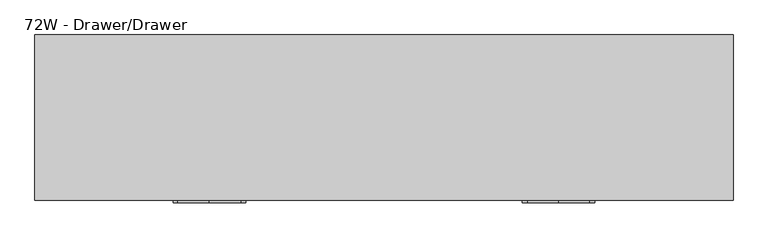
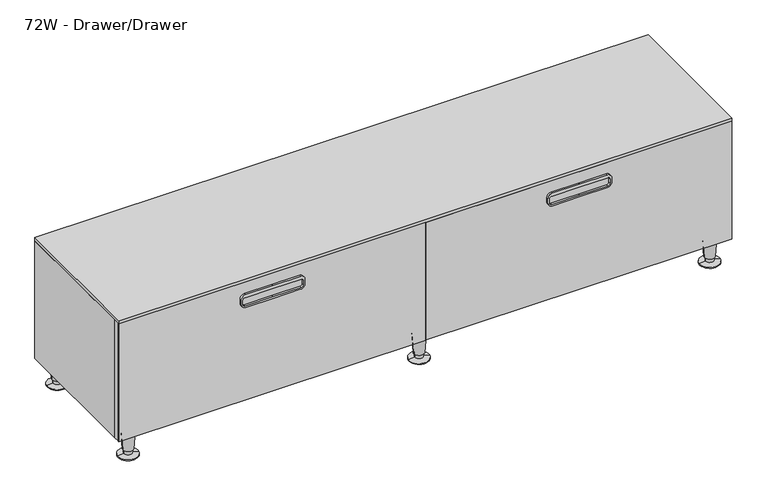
"""IFC4 building model written with IfcOpenShell, lengths in millimetres: furniture geometry, Steelcase - C Scape - Low Storage - 1 High - 60W and 72W : 72W - Drawer/Drawer."""

from ifc_helpers import new_model, si_unit, point, frame, frame_2d, origin, place, context, project, spatial, polyline, circle_curve, trimmed, segment, composite_curve, outline, extrude, faceted_brep, source, transform, mapped, element, save
from ifc_brep_helpers import plane_surface, cylinder_surface, revolved_surface, advanced_brep


def furniture_72w_drawer_drawer_86bb611e(model_context):
    return source(origin(), model_context, "Body", "SolidModel", [
        extrude(outline(polyline([(447.0400097, 1522.73), (447.0400097, -305.435), (76.2, -305.435), (76.2, 1522.73), (447.0400097, 1522.73)]), holes=[polyline([(436.118, 1501.3917676), (92.7100024, 1501.3917676), (92.7100024, -283.4630912), (436.118, -283.4630912), (436.118, 1501.3917676)])]), frame((0.0, -426.7186111, 0.0), z_axis=(0.0, 1.0, 0.0), x_axis=(0.0, 0.0, 1.0)), (0.0, 0.0, 1.0), 14.3975487),
        faceted_brep([(-283.4630912, -412.3210624, 92.7100024), (586.4224874, -412.3210624, 92.7100024), (586.4224874, -9.525, 92.7100024), (-283.4630912, -9.525, 92.7100024), (631.5075126, -412.3210624, 92.7100024), (1501.3917676, -412.3210624, 92.7100024), (1501.3917676, -9.525, 92.7100024), (631.5075126, -9.525, 92.7100024), (-305.435, 0.0, 76.2), (1523.365, 0.0, 76.2), (1523.365, -412.3210624, 76.2), (-305.435, -412.3210624, 76.2), (-305.435, -412.3210624, 447.0400097), (-305.435, 0.0, 447.0400097), (1523.365, -412.3210624, 447.0400097), (1501.3917676, -412.3210624, 447.0400097), (-283.4630912, -412.3210624, 447.0400097), (1523.365, 0.0, 447.0400097), (-283.4630912, -9.525, 447.0400097), (586.4224874, -9.525, 447.0400097), (586.4224874, -415.2912402, 447.0400097), (600.0410976, -426.7186111, 447.0400097), (617.8889024, -426.7186111, 447.0400097), (631.5075126, -415.2912402, 447.0400097), (631.5075126, -9.525, 447.0400097), (1501.3917676, -9.525, 447.0400097), (586.4224874, -415.2912402, 92.7100024), (600.0410976, -426.7186111, 92.7100024), (617.8889024, -426.7186111, 92.7100024), (631.5075126, -415.2912402, 92.7100024)], [[[0, 1, 2, 3]], [[4, 5, 6, 7]], [[8, 9, 10, 11]], [[8, 11, 12, 13]], [[12, 11, 10, 14, 15, 5, 4, 1, 0, 16]], [[14, 10, 9, 17]], [[17, 9, 8, 13]], [[13, 12, 16, 18, 19, 20, 21, 22, 23, 24, 25, 15, 14, 17]], [[18, 16, 0, 3]], [[19, 18, 3, 2]], [[20, 19, 2, 1, 26]], [[21, 20, 26, 27]], [[23, 22, 28, 29]], [[24, 23, 29, 4, 7]], [[25, 24, 7, 6]], [[15, 25, 6, 5]], [[29, 28, 27, 26, 1, 4]], [[22, 21, 27, 28]]]),
        extrude(outline(composite_curve([segment(polyline([(412.7499879, 233.6804108), (412.7499879, 151.447655), (412.7499879, 69.2148993)]), True, "CONTINUOUS"), segment(trimmed(circle_curve(frame_2d((400.0499879, 69.2148993)), 12.7), [point((412.7499879, 69.2148993))], [point((400.0499879, 56.5148993))], False, "CARTESIAN"), True, "CONTINUOUS"), segment(polyline([(400.0499879, 56.5148993), (385.445017, 56.5148993)]), True, "CONTINUOUS"), segment(trimmed(circle_curve(frame_2d((385.445017, 69.2148993)), 12.7), [point((385.445017, 56.5148993))], [point((372.745017, 69.2148993))], False, "CARTESIAN"), True, "CONTINUOUS"), segment(polyline([(372.745017, 69.2148993), (372.745017, 151.447655), (372.745017, 233.6804108)]), True, "CONTINUOUS"), segment(trimmed(circle_curve(frame_2d((385.445017, 233.6804108)), 12.7), [point((372.745017, 233.6804108))], [point((385.445017, 246.3804108))], False, "CARTESIAN"), True, "CONTINUOUS"), segment(polyline([(385.445017, 246.3804108), (400.0499879, 246.3804108)]), True, "CONTINUOUS"), segment(trimmed(circle_curve(frame_2d((400.0499879, 233.6804108)), 12.7), [point((400.0499879, 246.3804108))], [point((412.7499879, 233.6804108))], False, "CARTESIAN"), True, "CONTINUOUS")], self_intersect=False), holes=[composite_curve([segment(polyline([(396.6210063, 241.5527985), (383.9209942, 241.5527985)]), True, "CONTINUOUS"), segment(trimmed(circle_curve(frame_2d((383.9209942, 235.2027985)), 6.35), [point((383.9209942, 241.5527985))], [point((377.5709942, 235.2027985))], True, "CARTESIAN"), True, "CONTINUOUS"), segment(polyline([(377.5709942, 235.2027985), (377.5709942, 151.447655), (377.5709942, 67.6925116)]), True, "CONTINUOUS"), segment(trimmed(circle_curve(frame_2d((383.9209942, 67.6925116)), 6.35), [point((377.5709942, 67.6925116))], [point((383.9209942, 61.3425116))], True, "CARTESIAN"), True, "CONTINUOUS"), segment(polyline([(383.9209942, 61.3425116), (396.6210063, 61.3425116)]), True, "CONTINUOUS"), segment(trimmed(circle_curve(frame_2d((396.6210063, 67.6925116)), 6.35), [point((396.6210063, 61.3425116))], [point((402.9710063, 67.6925116))], True, "CARTESIAN"), True, "CONTINUOUS"), segment(polyline([(402.9710063, 67.6925116), (402.9710063, 151.447655), (402.9710063, 235.2027985)]), True, "CONTINUOUS"), segment(trimmed(circle_curve(frame_2d((396.6210063, 235.2027985)), 6.35), [point((402.9710063, 235.2027985))], [point((396.6210063, 241.5527985))], True, "CARTESIAN"), True, "CONTINUOUS")], self_intersect=False)]), frame((0.0, -439.42, 0.0), z_axis=(0.0, 1.0, 0.0), x_axis=(0.0, 0.0, 1.0)), (0.0, 0.0, 1.0), 6.35),
        extrude(outline(polyline([(608.3303101, -426.7186111), (608.3303101, -433.07), (-305.435, -433.07), (-305.435, -426.7186111), (608.3303101, -426.7186111)])), frame((0.0, 0.0, 76.2), z_axis=(0.0, 0.0, 1.0), x_axis=(1.0, 0.0, 0.0)), (0.0, 0.0, 1.0), 370.8400097),
        advanced_brep(
        [(579.8539515, -29.9489775, 0.0), (638.0760485, -38.8569507, 0.0), (608.965, -34.4029641, 0.0), (579.8539515, -29.9489775, 2.5119506), (638.0760485, -38.8569507, 2.5119506), (597.202835, -32.6033544, 5.7545598), (620.727165, -36.2025738, 5.7545598), (596.5140655, -32.4979728, 19.05), (621.4159345, -36.3079555, 19.05), (594.0844786, -32.1262463, 19.05), (623.8455214, -36.6796819, 19.05), (590.1341305, -31.5218435, 76.2), (627.7958695, -37.2840847, 76.2), (608.965, -34.4029641, 76.2)],
        [
            (0, 1, circle_curve(frame((608.965, -34.4029641, 0.0), z_axis=(0.0, 0.0, -1.0), x_axis=(0.0, -1.0, 0.0)), 29.4498071)),
            (1, 2),
            (2, 0),
            (1, 0, circle_curve(frame((608.965, -34.4029641, 0.0), z_axis=(0.0, 0.0, -1.0), x_axis=(0.0, -1.0, 0.0)), 29.4498071)),
            (3, 4, circle_curve(frame((608.965, -34.4029641, 2.5119506), z_axis=(0.0, 0.0, -1.0), x_axis=(0.0, -1.0, 0.0)), 29.4498071)),
            (4, 1),
            (0, 3),
            (4, 3, circle_curve(frame((608.965, -34.4029641, 2.5119506), z_axis=(0.0, 0.0, -1.0), x_axis=(0.0, -1.0, 0.0)), 29.4498071)),
            (5, 6, circle_curve(frame((608.965, -34.4029641, 5.7545598), z_axis=(0.0, 0.0, -1.0), x_axis=(0.0, -1.0, 0.0)), 11.8990387)),
            (6, 4),
            (3, 5),
            (6, 5, circle_curve(frame((608.965, -34.4029641, 5.7545598), z_axis=(0.0, 0.0, -1.0), x_axis=(0.0, -1.0, 0.0)), 11.8990387)),
            (7, 8, circle_curve(frame((608.965, -34.4029641, 19.05), z_axis=(0.0, 0.0, -1.0), x_axis=(0.0, -1.0, 0.0)), 12.5958232)),
            (8, 6),
            (5, 7),
            (8, 7, circle_curve(frame((608.965, -34.4029641, 19.05), z_axis=(0.0, 0.0, -1.0), x_axis=(0.0, -1.0, 0.0)), 12.5958232)),
            (9, 10, circle_curve(frame((608.965, -34.4029641, 19.05), z_axis=(0.0, 0.0, -1.0), x_axis=(0.0, -1.0, 0.0)), 15.0536827)),
            (10, 8),
            (7, 9),
            (10, 9, circle_curve(frame((608.965, -34.4029641, 19.05), z_axis=(0.0, 0.0, -1.0), x_axis=(0.0, -1.0, 0.0)), 15.0536827)),
            (11, 12, circle_curve(frame((608.965, -34.4029641, 76.2), z_axis=(0.0, 0.0, -1.0), x_axis=(0.0, -1.0, 0.0)), 19.05)),
            (12, 10),
            (9, 11),
            (12, 11, circle_curve(frame((608.965, -34.4029641, 76.2), z_axis=(0.0, 0.0, -1.0), x_axis=(0.0, -1.0, 0.0)), 19.05)),
            (13, 12),
            (11, 13),
        ],
        [
            plane_surface(frame((608.965, -34.4029641, 0.0), z_axis=(0.0, 0.0, -1.0), x_axis=(0.0, -1.0, 0.0))),
            cylinder_surface(frame((608.965, -34.4029641, 25.4), z_axis=(0.0, 0.0, 1.0), x_axis=(0.0, -1.0, 0.0)), 29.4498071),
            revolved_surface(polyline([(608.965, -63.8527712, 2.5119506), (608.965, -46.3020028, 5.7545598)]), (608.965, -34.4029641, 25.4), (0.0, 0.0, 1.0)),
            revolved_surface(polyline([(608.965, -46.3020028, 5.7545598), (608.965, -46.9987873, 19.05)]), (608.965, -34.4029641, 25.4), (0.0, 0.0, 1.0)),
            plane_surface(frame((608.965, -34.4029641, 19.05), z_axis=(0.0, 0.0, -1.0), x_axis=(0.0, -1.0, 0.0))),
            revolved_surface(polyline([(608.965, -49.4566468, 19.05), (608.965, -53.4529641, 76.2)]), (608.965, -34.4029641, 25.4), (0.0, 0.0, 1.0)),
            plane_surface(frame((608.965, -34.4029641, 76.2), z_axis=(0.0, 0.0, 1.0), x_axis=(0.0, -1.0, 0.0))),
        ],
        [
            (0, [[1, 2, 3]]),
            (0, [[4, -3, -2]]),
            (1, [[5, 6, -1, 7]]),
            (1, [[8, -7, -4, -6]]),
            (2, [[9, 10, -5, 11]]),
            (2, [[12, -11, -8, -10]]),
            (3, [[13, 14, -9, 15]]),
            (3, [[16, -15, -12, -14]]),
            (4, [[17, 18, -13, 19]]),
            (4, [[20, -19, -16, -18]]),
            (5, [[21, 22, -17, 23]]),
            (5, [[24, -23, -20, -22]]),
            (6, [[25, -21, 26]]),
            (6, [[-26, -24, -25]]),
        ],
    ),
        advanced_brep(
        [(579.8539515, -395.5974102, 0.0), (638.0760485, -404.5053834, 0.0), (608.965, -400.0513968, 0.0), (579.8539515, -395.5974102, 2.5119506), (638.0760485, -404.5053834, 2.5119506), (597.202835, -398.2517871, 5.7545598), (620.727165, -401.8510065, 5.7545598), (596.5140655, -398.1464055, 19.05), (621.4159345, -401.9563882, 19.05), (594.0844786, -397.774679, 19.05), (623.8455214, -402.3281146, 19.05), (590.1341305, -397.1702762, 76.2), (627.7958695, -402.9325174, 76.2), (608.965, -400.0513968, 76.2)],
        [
            (0, 1, circle_curve(frame((608.965, -400.0513968, 0.0), z_axis=(0.0, 0.0, -1.0), x_axis=(0.0, -1.0, 0.0)), 29.4498071)),
            (1, 2),
            (2, 0),
            (1, 0, circle_curve(frame((608.965, -400.0513968, 0.0), z_axis=(0.0, 0.0, -1.0), x_axis=(0.0, -1.0, 0.0)), 29.4498071)),
            (3, 4, circle_curve(frame((608.965, -400.0513968, 2.5119506), z_axis=(0.0, 0.0, -1.0), x_axis=(0.0, -1.0, 0.0)), 29.4498071)),
            (4, 1),
            (0, 3),
            (4, 3, circle_curve(frame((608.965, -400.0513968, 2.5119506), z_axis=(0.0, 0.0, -1.0), x_axis=(0.0, -1.0, 0.0)), 29.4498071)),
            (5, 6, circle_curve(frame((608.965, -400.0513968, 5.7545598), z_axis=(0.0, 0.0, -1.0), x_axis=(0.0, -1.0, 0.0)), 11.8990387)),
            (6, 4),
            (3, 5),
            (6, 5, circle_curve(frame((608.965, -400.0513968, 5.7545598), z_axis=(0.0, 0.0, -1.0), x_axis=(0.0, -1.0, 0.0)), 11.8990387)),
            (7, 8, circle_curve(frame((608.965, -400.0513968, 19.05), z_axis=(0.0, 0.0, -1.0), x_axis=(0.0, -1.0, 0.0)), 12.5958232)),
            (8, 6),
            (5, 7),
            (8, 7, circle_curve(frame((608.965, -400.0513968, 19.05), z_axis=(0.0, 0.0, -1.0), x_axis=(0.0, -1.0, 0.0)), 12.5958232)),
            (9, 10, circle_curve(frame((608.965, -400.0513968, 19.05), z_axis=(0.0, 0.0, -1.0), x_axis=(0.0, -1.0, 0.0)), 15.0536827)),
            (10, 8),
            (7, 9),
            (10, 9, circle_curve(frame((608.965, -400.0513968, 19.05), z_axis=(0.0, 0.0, -1.0), x_axis=(0.0, -1.0, 0.0)), 15.0536827)),
            (11, 12, circle_curve(frame((608.965, -400.0513968, 76.2), z_axis=(0.0, 0.0, -1.0), x_axis=(0.0, -1.0, 0.0)), 19.05)),
            (12, 10),
            (9, 11),
            (12, 11, circle_curve(frame((608.965, -400.0513968, 76.2), z_axis=(0.0, 0.0, -1.0), x_axis=(0.0, -1.0, 0.0)), 19.05)),
            (13, 12),
            (11, 13),
        ],
        [
            plane_surface(frame((608.965, -400.0513968, 0.0), z_axis=(0.0, 0.0, -1.0), x_axis=(0.0, -1.0, 0.0))),
            cylinder_surface(frame((608.965, -400.0513968, 25.4), z_axis=(0.0, 0.0, 1.0), x_axis=(0.0, -1.0, 0.0)), 29.4498071),
            revolved_surface(polyline([(608.965, -429.5012039, 2.5119506), (608.965, -411.9504355, 5.7545598)]), (608.965, -400.0513968, 25.4), (0.0, 0.0, 1.0)),
            revolved_surface(polyline([(608.965, -411.9504355, 5.7545598), (608.965, -412.64722, 19.05)]), (608.965, -400.0513968, 25.4), (0.0, 0.0, 1.0)),
            plane_surface(frame((608.965, -400.0513968, 19.05), z_axis=(0.0, 0.0, -1.0), x_axis=(0.0, -1.0, 0.0))),
            revolved_surface(polyline([(608.965, -415.1050795, 19.05), (608.965, -419.1013968, 76.2)]), (608.965, -400.0513968, 25.4), (0.0, 0.0, 1.0)),
            plane_surface(frame((608.965, -400.0513968, 76.2), z_axis=(0.0, 0.0, 1.0), x_axis=(0.0, -1.0, 0.0))),
        ],
        [
            (0, [[1, 2, 3]]),
            (0, [[4, -3, -2]]),
            (1, [[5, 6, -1, 7]]),
            (1, [[8, -7, -4, -6]]),
            (2, [[9, 10, -5, 11]]),
            (2, [[12, -11, -8, -10]]),
            (3, [[13, 14, -9, 15]]),
            (3, [[16, -15, -12, -14]]),
            (4, [[17, 18, -13, 19]]),
            (4, [[20, -19, -16, -18]]),
            (5, [[21, 22, -17, 23]]),
            (5, [[24, -23, -20, -22]]),
            (6, [[25, -21, 26]]),
            (6, [[-26, -24, -25]]),
        ],
    ),
        extrude(outline(composite_curve([segment(trimmed(circle_curve(frame_2d((400.0499879, 983.9320892)), 12.7), [point((412.7499879, 983.9320892))], [point((400.0499879, 971.2320892))], False, "CARTESIAN"), True, "CONTINUOUS"), segment(polyline([(400.0499879, 971.2320892), (385.445017, 971.2320892)]), True, "CONTINUOUS"), segment(trimmed(circle_curve(frame_2d((385.445017, 983.9320892)), 12.7), [point((385.445017, 971.2320892))], [point((372.745017, 983.9320892))], False, "CARTESIAN"), True, "CONTINUOUS"), segment(polyline([(372.745017, 983.9320892), (372.745017, 1066.164845), (372.745017, 1148.3976007)]), True, "CONTINUOUS"), segment(trimmed(circle_curve(frame_2d((385.445017, 1148.3976007)), 12.7), [point((372.745017, 1148.3976007))], [point((385.445017, 1161.0976007))], False, "CARTESIAN"), True, "CONTINUOUS"), segment(polyline([(385.445017, 1161.0976007), (400.0499879, 1161.0976007)]), True, "CONTINUOUS"), segment(trimmed(circle_curve(frame_2d((400.0499879, 1148.3976007)), 12.7), [point((400.0499879, 1161.0976007))], [point((412.7499879, 1148.3976007))], False, "CARTESIAN"), True, "CONTINUOUS"), segment(polyline([(412.7499879, 1148.3976007), (412.7499879, 1066.164845), (412.7499879, 983.9320892)]), True, "CONTINUOUS")], self_intersect=False), holes=[composite_curve([segment(trimmed(circle_curve(frame_2d((396.6210063, 982.4097015)), 6.35), [point((396.6210063, 976.0597015))], [point((402.9710063, 982.4097015))], True, "CARTESIAN"), True, "CONTINUOUS"), segment(polyline([(402.9710063, 982.4097015), (402.9710063, 1066.164845), (402.9710063, 1149.9199884)]), True, "CONTINUOUS"), segment(trimmed(circle_curve(frame_2d((396.6210063, 1149.9199884)), 6.35), [point((402.9710063, 1149.9199884))], [point((396.6210063, 1156.2699884))], True, "CARTESIAN"), True, "CONTINUOUS"), segment(polyline([(396.6210063, 1156.2699884), (383.9209942, 1156.2699884)]), True, "CONTINUOUS"), segment(trimmed(circle_curve(frame_2d((383.9209942, 1149.9199884)), 6.35), [point((383.9209942, 1156.2699884))], [point((377.5709942, 1149.9199884))], True, "CARTESIAN"), True, "CONTINUOUS"), segment(polyline([(377.5709942, 1149.9199884), (377.5709942, 1066.164845), (377.5709942, 982.4097015)]), True, "CONTINUOUS"), segment(trimmed(circle_curve(frame_2d((383.9209942, 982.4097015)), 6.35), [point((377.5709942, 982.4097015))], [point((383.9209942, 976.0597015))], True, "CARTESIAN"), True, "CONTINUOUS"), segment(polyline([(383.9209942, 976.0597015), (396.6210063, 976.0597015)]), True, "CONTINUOUS")], self_intersect=False)]), frame((0.0, -439.42, 0.0), z_axis=(0.0, 1.0, 0.0), x_axis=(0.0, 0.0, 1.0)), (0.0, 0.0, 1.0), 6.35),
        advanced_brep(
        [(1446.9075389, -29.9489775, 0.0), (1505.1296359, -38.8569507, 0.0), (1476.0185874, -34.4029641, 0.0), (1446.9075389, -29.9489775, 2.5119506), (1505.1296359, -38.8569507, 2.5119506), (1464.2564224, -32.6033544, 5.7545598), (1487.7807524, -36.2025738, 5.7545598), (1463.5676529, -32.4979728, 19.05), (1488.4695219, -36.3079555, 19.05), (1461.1380659, -32.1262463, 19.05), (1490.8991088, -36.6796819, 19.05), (1457.1877179, -31.5218435, 76.2), (1494.8494568, -37.2840847, 76.2), (1476.0185874, -34.4029641, 76.2)],
        [
            (0, 1, circle_curve(frame((1476.0185874, -34.4029641, 0.0), z_axis=(0.0, 0.0, -1.0), x_axis=(0.0, -1.0, 0.0)), 29.4498071)),
            (1, 2),
            (2, 0),
            (1, 0, circle_curve(frame((1476.0185874, -34.4029641, 0.0), z_axis=(0.0, 0.0, -1.0), x_axis=(0.0, -1.0, 0.0)), 29.4498071)),
            (3, 4, circle_curve(frame((1476.0185874, -34.4029641, 2.5119506), z_axis=(0.0, 0.0, -1.0), x_axis=(0.0, -1.0, 0.0)), 29.4498071)),
            (4, 1),
            (0, 3),
            (4, 3, circle_curve(frame((1476.0185874, -34.4029641, 2.5119506), z_axis=(0.0, 0.0, -1.0), x_axis=(0.0, -1.0, 0.0)), 29.4498071)),
            (5, 6, circle_curve(frame((1476.0185874, -34.4029641, 5.7545598), z_axis=(0.0, 0.0, -1.0), x_axis=(0.0, -1.0, 0.0)), 11.8990387)),
            (6, 4),
            (3, 5),
            (6, 5, circle_curve(frame((1476.0185874, -34.4029641, 5.7545598), z_axis=(0.0, 0.0, -1.0), x_axis=(0.0, -1.0, 0.0)), 11.8990387)),
            (7, 8, circle_curve(frame((1476.0185874, -34.4029641, 19.05), z_axis=(0.0, 0.0, -1.0), x_axis=(0.0, -1.0, 0.0)), 12.5958232)),
            (8, 6),
            (5, 7),
            (8, 7, circle_curve(frame((1476.0185874, -34.4029641, 19.05), z_axis=(0.0, 0.0, -1.0), x_axis=(0.0, -1.0, 0.0)), 12.5958232)),
            (9, 10, circle_curve(frame((1476.0185874, -34.4029641, 19.05), z_axis=(0.0, 0.0, -1.0), x_axis=(0.0, -1.0, 0.0)), 15.0536827)),
            (10, 8),
            (7, 9),
            (10, 9, circle_curve(frame((1476.0185874, -34.4029641, 19.05), z_axis=(0.0, 0.0, -1.0), x_axis=(0.0, -1.0, 0.0)), 15.0536827)),
            (11, 12, circle_curve(frame((1476.0185874, -34.4029641, 76.2), z_axis=(0.0, 0.0, -1.0), x_axis=(0.0, -1.0, 0.0)), 19.05)),
            (12, 10),
            (9, 11),
            (12, 11, circle_curve(frame((1476.0185874, -34.4029641, 76.2), z_axis=(0.0, 0.0, -1.0), x_axis=(0.0, -1.0, 0.0)), 19.05)),
            (13, 12),
            (11, 13),
        ],
        [
            plane_surface(frame((1476.0185874, -34.4029641, 0.0), z_axis=(0.0, 0.0, -1.0), x_axis=(0.0, -1.0, 0.0))),
            cylinder_surface(frame((1476.0185874, -34.4029641, 25.4), z_axis=(0.0, 0.0, 1.0), x_axis=(0.0, -1.0, 0.0)), 29.4498071),
            revolved_surface(polyline([(1476.0185874, -63.8527712, 2.5119506), (1476.0185874, -46.3020028, 5.7545598)]), (1476.0185874, -34.4029641, 25.4), (0.0, 0.0, 1.0)),
            revolved_surface(polyline([(1476.0185874, -46.3020028, 5.7545598), (1476.0185874, -46.9987873, 19.05)]), (1476.0185874, -34.4029641, 25.4), (0.0, 0.0, 1.0)),
            plane_surface(frame((1476.0185874, -34.4029641, 19.05), z_axis=(0.0, 0.0, -1.0), x_axis=(0.0, -1.0, 0.0))),
            revolved_surface(polyline([(1476.0185874, -49.4566468, 19.05), (1476.0185874, -53.4529641, 76.2)]), (1476.0185874, -34.4029641, 25.4), (0.0, 0.0, 1.0)),
            plane_surface(frame((1476.0185874, -34.4029641, 76.2), z_axis=(0.0, 0.0, 1.0), x_axis=(0.0, -1.0, 0.0))),
        ],
        [
            (0, [[1, 2, 3]]),
            (0, [[4, -3, -2]]),
            (1, [[5, 6, -1, 7]]),
            (1, [[8, -7, -4, -6]]),
            (2, [[9, 10, -5, 11]]),
            (2, [[12, -11, -8, -10]]),
            (3, [[13, 14, -9, 15]]),
            (3, [[16, -15, -12, -14]]),
            (4, [[17, 18, -13, 19]]),
            (4, [[20, -19, -16, -18]]),
            (5, [[21, 22, -17, 23]]),
            (5, [[24, -23, -20, -22]]),
            (6, [[25, -21, 26]]),
            (6, [[-26, -24, -25]]),
        ],
    ),
        advanced_brep(
        [(1446.9075389, -395.5974102, 0.0), (1505.1296359, -404.5053834, 0.0), (1476.0185874, -400.0513968, 0.0), (1446.9075389, -395.5974102, 2.5119506), (1505.1296359, -404.5053834, 2.5119506), (1464.2564224, -398.2517871, 5.7545598), (1487.7807524, -401.8510065, 5.7545598), (1463.5676529, -398.1464055, 19.05), (1488.4695219, -401.9563882, 19.05), (1461.1380659, -397.774679, 19.05), (1490.8991088, -402.3281146, 19.05), (1457.1877179, -397.1702762, 76.2), (1494.8494568, -402.9325174, 76.2), (1476.0185874, -400.0513968, 76.2)],
        [
            (0, 1, circle_curve(frame((1476.0185874, -400.0513968, 0.0), z_axis=(0.0, 0.0, -1.0), x_axis=(0.0, -1.0, 0.0)), 29.4498071)),
            (1, 2),
            (2, 0),
            (1, 0, circle_curve(frame((1476.0185874, -400.0513968, 0.0), z_axis=(0.0, 0.0, -1.0), x_axis=(0.0, -1.0, 0.0)), 29.4498071)),
            (3, 4, circle_curve(frame((1476.0185874, -400.0513968, 2.5119506), z_axis=(0.0, 0.0, -1.0), x_axis=(0.0, -1.0, 0.0)), 29.4498071)),
            (4, 1),
            (0, 3),
            (4, 3, circle_curve(frame((1476.0185874, -400.0513968, 2.5119506), z_axis=(0.0, 0.0, -1.0), x_axis=(0.0, -1.0, 0.0)), 29.4498071)),
            (5, 6, circle_curve(frame((1476.0185874, -400.0513968, 5.7545598), z_axis=(0.0, 0.0, -1.0), x_axis=(0.0, -1.0, 0.0)), 11.8990387)),
            (6, 4),
            (3, 5),
            (6, 5, circle_curve(frame((1476.0185874, -400.0513968, 5.7545598), z_axis=(0.0, 0.0, -1.0), x_axis=(0.0, -1.0, 0.0)), 11.8990387)),
            (7, 8, circle_curve(frame((1476.0185874, -400.0513968, 19.05), z_axis=(0.0, 0.0, -1.0), x_axis=(0.0, -1.0, 0.0)), 12.5958232)),
            (8, 6),
            (5, 7),
            (8, 7, circle_curve(frame((1476.0185874, -400.0513968, 19.05), z_axis=(0.0, 0.0, -1.0), x_axis=(0.0, -1.0, 0.0)), 12.5958232)),
            (9, 10, circle_curve(frame((1476.0185874, -400.0513968, 19.05), z_axis=(0.0, 0.0, -1.0), x_axis=(0.0, -1.0, 0.0)), 15.0536827)),
            (10, 8),
            (7, 9),
            (10, 9, circle_curve(frame((1476.0185874, -400.0513968, 19.05), z_axis=(0.0, 0.0, -1.0), x_axis=(0.0, -1.0, 0.0)), 15.0536827)),
            (11, 12, circle_curve(frame((1476.0185874, -400.0513968, 76.2), z_axis=(0.0, 0.0, -1.0), x_axis=(0.0, -1.0, 0.0)), 19.05)),
            (12, 10),
            (9, 11),
            (12, 11, circle_curve(frame((1476.0185874, -400.0513968, 76.2), z_axis=(0.0, 0.0, -1.0), x_axis=(0.0, -1.0, 0.0)), 19.05)),
            (13, 12),
            (11, 13),
        ],
        [
            plane_surface(frame((1476.0185874, -400.0513968, 0.0), z_axis=(0.0, 0.0, -1.0), x_axis=(0.0, -1.0, 0.0))),
            cylinder_surface(frame((1476.0185874, -400.0513968, 25.4), z_axis=(0.0, 0.0, 1.0), x_axis=(0.0, -1.0, 0.0)), 29.4498071),
            revolved_surface(polyline([(1476.0185874, -429.5012039, 2.5119506), (1476.0185874, -411.9504355, 5.7545598)]), (1476.0185874, -400.0513968, 25.4), (0.0, 0.0, 1.0)),
            revolved_surface(polyline([(1476.0185874, -411.9504355, 5.7545598), (1476.0185874, -412.64722, 19.05)]), (1476.0185874, -400.0513968, 25.4), (0.0, 0.0, 1.0)),
            plane_surface(frame((1476.0185874, -400.0513968, 19.05), z_axis=(0.0, 0.0, -1.0), x_axis=(0.0, -1.0, 0.0))),
            revolved_surface(polyline([(1476.0185874, -415.1050795, 19.05), (1476.0185874, -419.1013968, 76.2)]), (1476.0185874, -400.0513968, 25.4), (0.0, 0.0, 1.0)),
            plane_surface(frame((1476.0185874, -400.0513968, 76.2), z_axis=(0.0, 0.0, 1.0), x_axis=(0.0, -1.0, 0.0))),
        ],
        [
            (0, [[1, 2, 3]]),
            (0, [[4, -3, -2]]),
            (1, [[5, 6, -1, 7]]),
            (1, [[8, -7, -4, -6]]),
            (2, [[9, 10, -5, 11]]),
            (2, [[12, -11, -8, -10]]),
            (3, [[13, 14, -9, 15]]),
            (3, [[16, -15, -12, -14]]),
            (4, [[17, 18, -13, 19]]),
            (4, [[20, -19, -16, -18]]),
            (5, [[21, 22, -17, 23]]),
            (5, [[24, -23, -20, -22]]),
            (6, [[25, -21, 26]]),
            (6, [[-26, -24, -25]]),
        ],
    ),
        advanced_brep(
        [(-287.8113721, -395.5974102, 0.0), (-229.5892752, -404.5053834, 0.0), (-258.7003237, -400.0513968, 0.0), (-287.8113721, -395.5974102, 2.5119506), (-229.5892752, -404.5053834, 2.5119506), (-270.4624887, -398.2517871, 5.7545598), (-246.9381586, -401.8510065, 5.7545598), (-271.1512581, -398.1464055, 19.05), (-246.2493892, -401.9563882, 19.05), (-273.5808451, -397.774679, 19.05), (-243.8198022, -402.3281146, 19.05), (-277.5311931, -397.1702762, 76.2), (-239.8694542, -402.9325174, 76.2), (-258.7003237, -400.0513968, 76.2)],
        [
            (0, 1, circle_curve(frame((-258.7003237, -400.0513968, 0.0), z_axis=(0.0, 0.0, -1.0), x_axis=(0.0, -1.0, 0.0)), 29.4498071)),
            (1, 2),
            (2, 0),
            (1, 0, circle_curve(frame((-258.7003237, -400.0513968, 0.0), z_axis=(0.0, 0.0, -1.0), x_axis=(0.0, -1.0, 0.0)), 29.4498071)),
            (3, 4, circle_curve(frame((-258.7003237, -400.0513968, 2.5119506), z_axis=(0.0, 0.0, -1.0), x_axis=(0.0, -1.0, 0.0)), 29.4498071)),
            (4, 1),
            (0, 3),
            (4, 3, circle_curve(frame((-258.7003237, -400.0513968, 2.5119506), z_axis=(0.0, 0.0, -1.0), x_axis=(0.0, -1.0, 0.0)), 29.4498071)),
            (5, 6, circle_curve(frame((-258.7003237, -400.0513968, 5.7545598), z_axis=(0.0, 0.0, -1.0), x_axis=(0.0, -1.0, 0.0)), 11.8990387)),
            (6, 4),
            (3, 5),
            (6, 5, circle_curve(frame((-258.7003237, -400.0513968, 5.7545598), z_axis=(0.0, 0.0, -1.0), x_axis=(0.0, -1.0, 0.0)), 11.8990387)),
            (7, 8, circle_curve(frame((-258.7003237, -400.0513968, 19.05), z_axis=(0.0, 0.0, -1.0), x_axis=(0.0, -1.0, 0.0)), 12.5958232)),
            (8, 6),
            (5, 7),
            (8, 7, circle_curve(frame((-258.7003237, -400.0513968, 19.05), z_axis=(0.0, 0.0, -1.0), x_axis=(0.0, -1.0, 0.0)), 12.5958232)),
            (9, 10, circle_curve(frame((-258.7003237, -400.0513968, 19.05), z_axis=(0.0, 0.0, -1.0), x_axis=(0.0, -1.0, 0.0)), 15.0536827)),
            (10, 8),
            (7, 9),
            (10, 9, circle_curve(frame((-258.7003237, -400.0513968, 19.05), z_axis=(0.0, 0.0, -1.0), x_axis=(0.0, -1.0, 0.0)), 15.0536827)),
            (11, 12, circle_curve(frame((-258.7003237, -400.0513968, 76.2), z_axis=(0.0, 0.0, -1.0), x_axis=(0.0, -1.0, 0.0)), 19.05)),
            (12, 10),
            (9, 11),
            (12, 11, circle_curve(frame((-258.7003237, -400.0513968, 76.2), z_axis=(0.0, 0.0, -1.0), x_axis=(0.0, -1.0, 0.0)), 19.05)),
            (13, 12),
            (11, 13),
        ],
        [
            plane_surface(frame((-258.7003237, -400.0513968, 0.0), z_axis=(0.0, 0.0, -1.0), x_axis=(0.0, -1.0, 0.0))),
            cylinder_surface(frame((-258.7003237, -400.0513968, 25.4), z_axis=(0.0, 0.0, 1.0), x_axis=(0.0, -1.0, 0.0)), 29.4498071),
            revolved_surface(polyline([(-258.7003237, -429.5012039, 2.5119506), (-258.7003237, -411.9504355, 5.7545598)]), (-258.7003237, -400.0513968, 25.4), (0.0, 0.0, 1.0)),
            revolved_surface(polyline([(-258.7003237, -411.9504355, 5.7545598), (-258.7003237, -412.64722, 19.05)]), (-258.7003237, -400.0513968, 25.4), (0.0, 0.0, 1.0)),
            plane_surface(frame((-258.7003237, -400.0513968, 19.05), z_axis=(0.0, 0.0, -1.0), x_axis=(0.0, -1.0, 0.0))),
            revolved_surface(polyline([(-258.7003237, -415.1050795, 19.05), (-258.7003237, -419.1013968, 76.2)]), (-258.7003237, -400.0513968, 25.4), (0.0, 0.0, 1.0)),
            plane_surface(frame((-258.7003237, -400.0513968, 76.2), z_axis=(0.0, 0.0, 1.0), x_axis=(0.0, -1.0, 0.0))),
        ],
        [
            (0, [[1, 2, 3]]),
            (0, [[4, -3, -2]]),
            (1, [[5, 6, -1, 7]]),
            (1, [[8, -7, -4, -6]]),
            (2, [[9, 10, -5, 11]]),
            (2, [[12, -11, -8, -10]]),
            (3, [[13, 14, -9, 15]]),
            (3, [[16, -15, -12, -14]]),
            (4, [[17, 18, -13, 19]]),
            (4, [[20, -19, -16, -18]]),
            (5, [[21, 22, -17, 23]]),
            (5, [[24, -23, -20, -22]]),
            (6, [[25, -21, 26]]),
            (6, [[-26, -24, -25]]),
        ],
    ),
        advanced_brep(
        [(-287.8113721, -29.9489775, 0.0), (-229.5892752, -38.8569507, 0.0), (-258.7003237, -34.4029641, 0.0), (-287.8113721, -29.9489775, 2.5119506), (-229.5892752, -38.8569507, 2.5119506), (-270.4624887, -32.6033544, 5.7545598), (-246.9381586, -36.2025738, 5.7545598), (-271.1512581, -32.4979728, 19.05), (-246.2493892, -36.3079555, 19.05), (-273.5808451, -32.1262463, 19.05), (-243.8198022, -36.6796819, 19.05), (-277.5311931, -31.5218435, 76.2), (-239.8694542, -37.2840847, 76.2), (-258.7003237, -34.4029641, 76.2)],
        [
            (0, 1, circle_curve(frame((-258.7003237, -34.4029641, 0.0), z_axis=(0.0, 0.0, -1.0), x_axis=(0.0, -1.0, 0.0)), 29.4498071)),
            (1, 2),
            (2, 0),
            (1, 0, circle_curve(frame((-258.7003237, -34.4029641, 0.0), z_axis=(0.0, 0.0, -1.0), x_axis=(0.0, -1.0, 0.0)), 29.4498071)),
            (3, 4, circle_curve(frame((-258.7003237, -34.4029641, 2.5119506), z_axis=(0.0, 0.0, -1.0), x_axis=(0.0, -1.0, 0.0)), 29.4498071)),
            (4, 1),
            (0, 3),
            (4, 3, circle_curve(frame((-258.7003237, -34.4029641, 2.5119506), z_axis=(0.0, 0.0, -1.0), x_axis=(0.0, -1.0, 0.0)), 29.4498071)),
            (5, 6, circle_curve(frame((-258.7003237, -34.4029641, 5.7545598), z_axis=(0.0, 0.0, -1.0), x_axis=(0.0, -1.0, 0.0)), 11.8990387)),
            (6, 4),
            (3, 5),
            (6, 5, circle_curve(frame((-258.7003237, -34.4029641, 5.7545598), z_axis=(0.0, 0.0, -1.0), x_axis=(0.0, -1.0, 0.0)), 11.8990387)),
            (7, 8, circle_curve(frame((-258.7003237, -34.4029641, 19.05), z_axis=(0.0, 0.0, -1.0), x_axis=(0.0, -1.0, 0.0)), 12.5958232)),
            (8, 6),
            (5, 7),
            (8, 7, circle_curve(frame((-258.7003237, -34.4029641, 19.05), z_axis=(0.0, 0.0, -1.0), x_axis=(0.0, -1.0, 0.0)), 12.5958232)),
            (9, 10, circle_curve(frame((-258.7003237, -34.4029641, 19.05), z_axis=(0.0, 0.0, -1.0), x_axis=(0.0, -1.0, 0.0)), 15.0536827)),
            (10, 8),
            (7, 9),
            (10, 9, circle_curve(frame((-258.7003237, -34.4029641, 19.05), z_axis=(0.0, 0.0, -1.0), x_axis=(0.0, -1.0, 0.0)), 15.0536827)),
            (11, 12, circle_curve(frame((-258.7003237, -34.4029641, 76.2), z_axis=(0.0, 0.0, -1.0), x_axis=(0.0, -1.0, 0.0)), 19.05)),
            (12, 10),
            (9, 11),
            (12, 11, circle_curve(frame((-258.7003237, -34.4029641, 76.2), z_axis=(0.0, 0.0, -1.0), x_axis=(0.0, -1.0, 0.0)), 19.05)),
            (13, 12),
            (11, 13),
        ],
        [
            plane_surface(frame((-258.7003237, -34.4029641, 0.0), z_axis=(0.0, 0.0, -1.0), x_axis=(0.0, -1.0, 0.0))),
            cylinder_surface(frame((-258.7003237, -34.4029641, 25.4), z_axis=(0.0, 0.0, 1.0), x_axis=(0.0, -1.0, 0.0)), 29.4498071),
            revolved_surface(polyline([(-258.7003237, -63.8527712, 2.5119506), (-258.7003237, -46.3020028, 5.7545598)]), (-258.7003237, -34.4029641, 25.4), (0.0, 0.0, 1.0)),
            revolved_surface(polyline([(-258.7003237, -46.3020028, 5.7545598), (-258.7003237, -46.9987873, 19.05)]), (-258.7003237, -34.4029641, 25.4), (0.0, 0.0, 1.0)),
            plane_surface(frame((-258.7003237, -34.4029641, 19.05), z_axis=(0.0, 0.0, -1.0), x_axis=(0.0, -1.0, 0.0))),
            revolved_surface(polyline([(-258.7003237, -49.4566468, 19.05), (-258.7003237, -53.4529641, 76.2)]), (-258.7003237, -34.4029641, 25.4), (0.0, 0.0, 1.0)),
            plane_surface(frame((-258.7003237, -34.4029641, 76.2), z_axis=(0.0, 0.0, 1.0), x_axis=(0.0, -1.0, 0.0))),
        ],
        [
            (0, [[1, 2, 3]]),
            (0, [[4, -3, -2]]),
            (1, [[5, 6, -1, 7]]),
            (1, [[8, -7, -4, -6]]),
            (2, [[9, 10, -5, 11]]),
            (2, [[12, -11, -8, -10]]),
            (3, [[13, 14, -9, 15]]),
            (3, [[16, -15, -12, -14]]),
            (4, [[17, 18, -13, 19]]),
            (4, [[20, -19, -16, -18]]),
            (5, [[21, 22, -17, 23]]),
            (5, [[24, -23, -20, -22]]),
            (6, [[25, -21, 26]]),
            (6, [[-26, -24, -25]]),
        ],
    ),
        extrude(outline(polyline([(609.5996899, -426.7186111), (1523.365, -426.7186111), (1523.365, -433.07), (609.5996899, -433.07), (609.5996899, -426.7186111)])), frame((0.0, 0.0, 76.2), z_axis=(0.0, 0.0, 1.0), x_axis=(1.0, 0.0, 0.0)), (0.0, 0.0, 1.0), 370.8400097),
        extrude(outline(polyline([(-305.435, 0.0), (1523.365, 0.0), (1523.365, -433.07), (-305.435, -433.07), (-305.435, 0.0)])), frame((0.0, 0.0, 447.0400097), z_axis=(0.0, 0.0, 1.0), x_axis=(1.0, 0.0, 0.0)), (0.0, 0.0, 1.0), 10.1599903),
    ])


if __name__ == "__main__":
    model = new_model("IFC4")
    model_context = context("Model", 3, world=origin())
    ifc_project = project(units=[si_unit("LENGTHUNIT", "METRE", prefix="MILLI")], contexts=[model_context])
    site = spatial("IfcSite", under=ifc_project)
    building = spatial("IfcBuilding", under=site)
    placement = place(None, origin())
    furniture_72w_drawer_drawer_shape = furniture_72w_drawer_drawer_86bb611e(model_context)
    element("IfcFurniture", 1, ObjectType="Steelcase - C Scape - Low Storage - 1 High - 60W and 72W : 72W - Drawer/Drawer", at=placement, inside=building, context=model_context, shape_type="MappedRepresentation", body=[
        mapped(furniture_72w_drawer_drawer_shape, transform((0.0, 0.0, 0.0), x_axis=(1.0, 0.0, 0.0), y_axis=(0.0, 1.0, 0.0), z_axis=(0.0, 0.0, 1.0))),
    ])
    save(model, "model.ifc")
